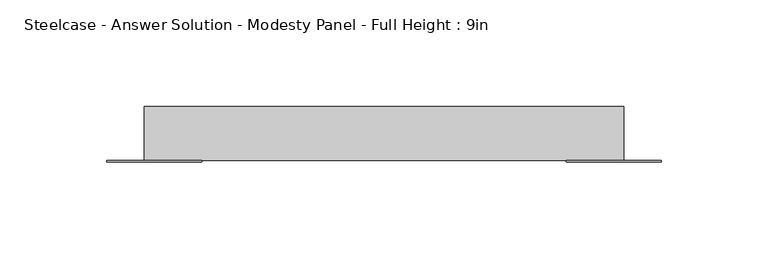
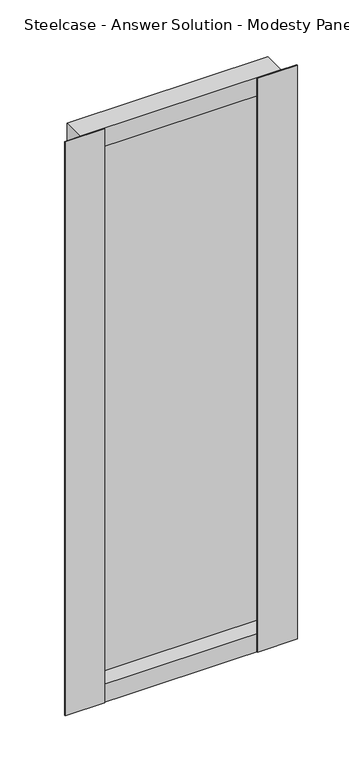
"""IFC4 building model written with IfcOpenShell, lengths in millimetres: furniture geometry, Steelcase - Answer Solution - Modesty Panel - Full Height : 9in."""

from ifc_helpers import new_model, si_unit, frame, origin, place, context, project, spatial, polyline, outline, extrude, faceted_brep, source, transform, mapped, element, save


def steelcase_answer_solution_modesty_panel_full_height_9in_136281e6(model_context):
    return source(origin(), model_context, "Body", "SolidModel", [
        extrude(outline(polyline([(772.1400478, -14.2668826), (772.1400478, -15.0593624), (727.7248254, -15.0593624), (727.7248254, -14.2668826), (772.1400478, -14.2668826)])), frame((0.0, 0.0, 17.653), z_axis=(0.0, 0.0, 1.0), x_axis=(1.0, 0.0, 0.0)), (0.0, 0.0, 1.0), 678.18),
        extrude(outline(polyline([(556.9673392, -14.2668826), (556.9673392, -15.0593624), (512.5520826, -15.0593624), (512.5520826, -14.2668826), (556.9673392, -14.2668826)])), frame((0.0, 0.0, 17.653), z_axis=(0.0, 0.0, 1.0), x_axis=(1.0, 0.0, 0.0)), (0.0, 0.0, 1.0), 678.18),
        faceted_brep([(530.0780827, 10.9045177, 17.653), (530.0780827, -14.2668826, 17.653), (530.0780827, -14.2668826, 695.833), (530.0780827, 10.9045177, 695.833), (754.6140827, -14.2668826, 17.653), (754.6140827, 10.9045177, 17.653), (754.6140827, 10.9045177, 695.833), (754.6140827, -14.2668826, 695.833), (753.8216165, 4.7831174, 39.243), (530.8705628, 4.7831174, 39.243), (530.8705628, -14.2668826, 39.243), (753.8216165, -14.2668826, 39.243), (530.8705628, -14.2668826, 674.243), (753.8216165, -14.2668826, 674.243), (530.8705628, 4.7831174, 674.243), (753.8216165, 4.7831174, 674.243)], [[[0, 1, 2, 3]], [[4, 5, 6, 7]], [[8, 9, 10, 11]], [[0, 3, 6, 5]], [[4, 1, 0, 5]], [[2, 1, 4, 7], [10, 12, 13, 11]], [[3, 2, 7, 6]], [[14, 15, 13, 12]], [[9, 8, 15, 14]], [[12, 10, 9, 14]], [[11, 13, 15, 8]]]),
    ])


if __name__ == "__main__":
    model = new_model("IFC4")
    model_context = context("Model", 3, world=origin())
    ifc_project = project(units=[si_unit("LENGTHUNIT", "METRE", prefix="MILLI")], contexts=[model_context])
    site = spatial("IfcSite", under=ifc_project)
    building = spatial("IfcBuilding", under=site)
    placement = place(None, origin())
    steelcase_answer_solution_modesty_panel_full_height_9in_shape = steelcase_answer_solution_modesty_panel_full_height_9in_136281e6(model_context)
    element("IfcFurniture", 1, ObjectType="Steelcase - Answer Solution - Modesty Panel - Full Height : 9in", at=placement, inside=building, context=model_context, shape_type="MappedRepresentation", body=[
        mapped(steelcase_answer_solution_modesty_panel_full_height_9in_shape, transform((0.0, 0.0, 0.0), x_axis=(1.0, 0.0, 0.0), y_axis=(0.0, 1.0, 0.0), z_axis=(0.0, 0.0, 1.0))),
    ])
    save(model, "model.ifc")
